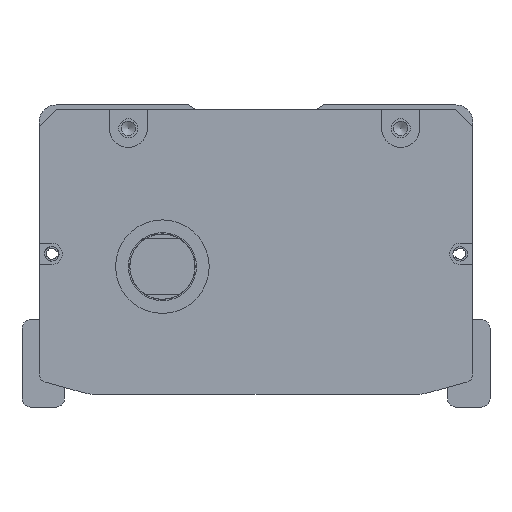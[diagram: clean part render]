
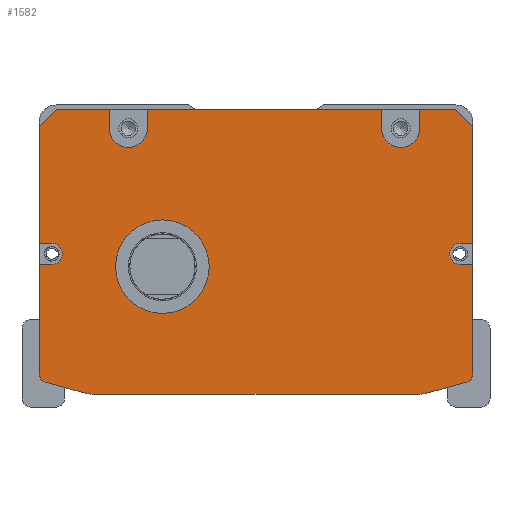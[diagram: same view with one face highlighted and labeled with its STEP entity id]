
A CAD part, front view. The second image highlights one B-rep face of the part: STEP entity #1582.
In plain terms, the highlighted planar face has unit normal (0, -1, 0).
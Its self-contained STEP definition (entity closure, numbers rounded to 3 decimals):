
#958=FACE_BOUND('',#3010,.T.);
#959=FACE_BOUND('',#3011,.T.);
#1582=ADVANCED_FACE('',(#958,#959),#2173,.F.);
#2173=PLANE('',#11715);
#3010=EDGE_LOOP('',(#5327,#5328,#5329,#5330,#5331,#5332,#5333,#5334,#5335,
#5336,#5337,#5338,#5339,#5340,#5341,#5342,#5343,#5344,#5345,#5346,#5347,
#5348,#5349,#5350,#5351,#5352,#5353,#5354));
#3011=EDGE_LOOP('',(#5355));
#3941=CIRCLE('',#11706,4.5);
#3942=CIRCLE('',#11707,4.5);
#3943=CIRCLE('',#11708,2.5);
#3944=CIRCLE('',#11709,2.);
#3945=CIRCLE('',#11710,10.);
#3946=CIRCLE('',#11711,10.);
#3947=CIRCLE('',#11712,2.);
#3948=CIRCLE('',#11713,2.5);
#3949=CIRCLE('',#11714,11.);
#5327=ORIENTED_EDGE('',*,*,#8620,.T.);
#5328=ORIENTED_EDGE('',*,*,#9034,.T.);
#5329=ORIENTED_EDGE('',*,*,#9035,.T.);
#5330=ORIENTED_EDGE('',*,*,#9036,.F.);
#5331=ORIENTED_EDGE('',*,*,#9037,.T.);
#5332=ORIENTED_EDGE('',*,*,#9038,.F.);
#5333=ORIENTED_EDGE('',*,*,#9039,.T.);
#5334=ORIENTED_EDGE('',*,*,#9040,.F.);
#5335=ORIENTED_EDGE('',*,*,#9041,.T.);
#5336=ORIENTED_EDGE('',*,*,#9042,.F.);
#5337=ORIENTED_EDGE('',*,*,#9043,.T.);
#5338=ORIENTED_EDGE('',*,*,#9044,.T.);
#5339=ORIENTED_EDGE('',*,*,#8652,.T.);
#5340=ORIENTED_EDGE('',*,*,#9045,.T.);
#5341=ORIENTED_EDGE('',*,*,#9046,.T.);
#5342=ORIENTED_EDGE('',*,*,#9047,.T.);
#5343=ORIENTED_EDGE('',*,*,#8648,.T.);
#5344=ORIENTED_EDGE('',*,*,#9048,.T.);
#5345=ORIENTED_EDGE('',*,*,#9049,.T.);
#5346=ORIENTED_EDGE('',*,*,#9050,.T.);
#5347=ORIENTED_EDGE('',*,*,#9051,.T.);
#5348=ORIENTED_EDGE('',*,*,#9052,.T.);
#5349=ORIENTED_EDGE('',*,*,#9053,.T.);
#5350=ORIENTED_EDGE('',*,*,#9054,.T.);
#5351=ORIENTED_EDGE('',*,*,#8624,.T.);
#5352=ORIENTED_EDGE('',*,*,#9055,.T.);
#5353=ORIENTED_EDGE('',*,*,#9056,.T.);
#5354=ORIENTED_EDGE('',*,*,#9057,.T.);
#5355=ORIENTED_EDGE('',*,*,#9058,.T.);
#7510=VERTEX_POINT('',#16116);
#7511=VERTEX_POINT('',#16118);
#7514=VERTEX_POINT('',#16124);
#7515=VERTEX_POINT('',#16126);
#7536=VERTEX_POINT('',#16171);
#7537=VERTEX_POINT('',#16173);
#7540=VERTEX_POINT('',#16179);
#7541=VERTEX_POINT('',#16181);
#7802=VERTEX_POINT('',#16970);
#7803=VERTEX_POINT('',#16972);
#7804=VERTEX_POINT('',#16974);
#7805=VERTEX_POINT('',#16976);
#7806=VERTEX_POINT('',#16978);
#7807=VERTEX_POINT('',#16980);
#7808=VERTEX_POINT('',#16982);
#7809=VERTEX_POINT('',#16984);
#7810=VERTEX_POINT('',#16986);
#7811=VERTEX_POINT('',#16988);
#7812=VERTEX_POINT('',#16991);
#7813=VERTEX_POINT('',#16993);
#7814=VERTEX_POINT('',#16996);
#7815=VERTEX_POINT('',#16998);
#7816=VERTEX_POINT('',#17000);
#7817=VERTEX_POINT('',#17002);
#7818=VERTEX_POINT('',#17004);
#7819=VERTEX_POINT('',#17006);
#7820=VERTEX_POINT('',#17009);
#7821=VERTEX_POINT('',#17011);
#7822=VERTEX_POINT('',#17014);
#8620=EDGE_CURVE('',#7511,#7510,#10055,.T.);
#8624=EDGE_CURVE('',#7515,#7514,#10059,.T.);
#8648=EDGE_CURVE('',#7537,#7536,#10083,.T.);
#8652=EDGE_CURVE('',#7541,#7540,#10087,.T.);
#9034=EDGE_CURVE('',#7510,#7802,#10320,.T.);
#9035=EDGE_CURVE('',#7802,#7803,#10321,.T.);
#9036=EDGE_CURVE('',#7804,#7803,#10322,.T.);
#9037=EDGE_CURVE('',#7804,#7805,#3941,.T.);
#9038=EDGE_CURVE('',#7806,#7805,#10323,.T.);
#9039=EDGE_CURVE('',#7806,#7807,#10324,.T.);
#9040=EDGE_CURVE('',#7808,#7807,#10325,.T.);
#9041=EDGE_CURVE('',#7808,#7809,#3942,.T.);
#9042=EDGE_CURVE('',#7810,#7809,#10326,.T.);
#9043=EDGE_CURVE('',#7810,#7811,#10327,.T.);
#9044=EDGE_CURVE('',#7811,#7541,#10328,.T.);
#9045=EDGE_CURVE('',#7540,#7812,#10329,.T.);
#9046=EDGE_CURVE('',#7812,#7813,#3943,.T.);
#9047=EDGE_CURVE('',#7813,#7537,#10330,.T.);
#9048=EDGE_CURVE('',#7536,#7814,#3944,.T.);
#9049=EDGE_CURVE('',#7814,#7815,#10331,.T.);
#9050=EDGE_CURVE('',#7815,#7816,#3945,.T.);
#9051=EDGE_CURVE('',#7816,#7817,#10332,.T.);
#9052=EDGE_CURVE('',#7817,#7818,#3946,.T.);
#9053=EDGE_CURVE('',#7818,#7819,#10333,.T.);
#9054=EDGE_CURVE('',#7819,#7515,#3947,.T.);
#9055=EDGE_CURVE('',#7514,#7820,#10334,.T.);
#9056=EDGE_CURVE('',#7820,#7821,#3948,.T.);
#9057=EDGE_CURVE('',#7821,#7511,#10335,.T.);
#9058=EDGE_CURVE('',#7822,#7822,#3949,.T.);
#10055=LINE('',#16117,#10708);
#10059=LINE('',#16125,#10712);
#10083=LINE('',#16172,#10736);
#10087=LINE('',#16180,#10740);
#10320=LINE('',#16969,#10973);
#10321=LINE('',#16971,#10974);
#10322=LINE('',#16973,#10975);
#10323=LINE('',#16977,#10976);
#10324=LINE('',#16979,#10977);
#10325=LINE('',#16981,#10978);
#10326=LINE('',#16985,#10979);
#10327=LINE('',#16987,#10980);
#10328=LINE('',#16989,#10981);
#10329=LINE('',#16990,#10982);
#10330=LINE('',#16994,#10983);
#10331=LINE('',#16997,#10984);
#10332=LINE('',#17001,#10985);
#10333=LINE('',#17005,#10986);
#10334=LINE('',#17008,#10987);
#10335=LINE('',#17012,#10988);
#10708=VECTOR('',#12870,1.);
#10712=VECTOR('',#12874,1.);
#10736=VECTOR('',#12900,1.);
#10740=VECTOR('',#12904,1.);
#10973=VECTOR('',#13727,1.);
#10974=VECTOR('',#13728,1.);
#10975=VECTOR('',#13729,1.);
#10976=VECTOR('',#13732,1.);
#10977=VECTOR('',#13733,1.);
#10978=VECTOR('',#13734,1.);
#10979=VECTOR('',#13737,1.);
#10980=VECTOR('',#13738,1.);
#10981=VECTOR('',#13739,1.);
#10982=VECTOR('',#13740,1.);
#10983=VECTOR('',#13743,1.);
#10984=VECTOR('',#13746,1.);
#10985=VECTOR('',#13749,1.);
#10986=VECTOR('',#13752,1.);
#10987=VECTOR('',#13755,1.);
#10988=VECTOR('',#13758,1.);
#11706=AXIS2_PLACEMENT_3D('',#16975,#13730,#13731);
#11707=AXIS2_PLACEMENT_3D('',#16983,#13735,#13736);
#11708=AXIS2_PLACEMENT_3D('',#16992,#13741,#13742);
#11709=AXIS2_PLACEMENT_3D('',#16995,#13744,#13745);
#11710=AXIS2_PLACEMENT_3D('',#16999,#13747,#13748);
#11711=AXIS2_PLACEMENT_3D('',#17003,#13750,#13751);
#11712=AXIS2_PLACEMENT_3D('',#17007,#13753,#13754);
#11713=AXIS2_PLACEMENT_3D('',#17010,#13756,#13757);
#11714=AXIS2_PLACEMENT_3D('',#17013,#13759,#13760);
#11715=AXIS2_PLACEMENT_3D('',#17015,#13761,#13762);
#12870=DIRECTION('',(0.,0.,1.));
#12874=DIRECTION('',(0.,0.,1.));
#12900=DIRECTION('',(0.,0.,-1.));
#12904=DIRECTION('',(0.,0.,-1.));
#13727=DIRECTION('',(-0.707,0.,0.707));
#13728=DIRECTION('',(-1.,0.,0.));
#13729=DIRECTION('',(0.,0.,1.));
#13730=DIRECTION('',(0.,1.,0.));
#13731=DIRECTION('',(0.,0.,1.));
#13732=DIRECTION('',(0.,0.,-1.));
#13733=DIRECTION('',(-1.,0.,0.));
#13734=DIRECTION('',(0.,0.,1.));
#13735=DIRECTION('',(0.,1.,0.));
#13736=DIRECTION('',(0.,0.,1.));
#13737=DIRECTION('',(0.,0.,-1.));
#13738=DIRECTION('',(-1.,0.,0.));
#13739=DIRECTION('',(-0.707,0.,-0.707));
#13740=DIRECTION('',(1.,0.,0.));
#13741=DIRECTION('',(0.,1.,0.));
#13742=DIRECTION('',(0.,0.,1.));
#13743=DIRECTION('',(-1.,0.,0.));
#13744=DIRECTION('',(0.,-1.,0.));
#13745=DIRECTION('',(0.,0.,1.));
#13746=DIRECTION('',(0.963,0.,-0.269));
#13747=DIRECTION('',(0.,-1.,0.));
#13748=DIRECTION('',(0.,0.,1.));
#13749=DIRECTION('',(1.,0.,0.));
#13750=DIRECTION('',(0.,-1.,0.));
#13751=DIRECTION('',(0.,0.,-1.));
#13752=DIRECTION('',(0.963,0.,0.269));
#13753=DIRECTION('',(0.,-1.,0.));
#13754=DIRECTION('',(0.,0.,-1.));
#13755=DIRECTION('',(-1.,0.,0.));
#13756=DIRECTION('',(0.,1.,0.));
#13757=DIRECTION('',(0.,0.,1.));
#13758=DIRECTION('',(1.,0.,0.));
#13759=DIRECTION('',(0.,1.,0.));
#13760=DIRECTION('',(0.,0.,1.));
#13761=DIRECTION('',(0.,1.,0.));
#13762=DIRECTION('',(1.,0.,0.));
#16116=CARTESIAN_POINT('',(47.808,-157.5,-5.));
#16117=CARTESIAN_POINT('',(47.808,-157.5,-1.));
#16118=CARTESIAN_POINT('',(47.808,-157.5,-32.5));
#16124=CARTESIAN_POINT('',(47.808,-157.5,-37.5));
#16125=CARTESIAN_POINT('',(47.808,-157.5,-1.));
#16126=CARTESIAN_POINT('',(47.808,-157.5,-63.212));
#16171=CARTESIAN_POINT('',(-54.192,-157.5,-63.212));
#16172=CARTESIAN_POINT('',(-54.192,-157.5,-62.));
#16173=CARTESIAN_POINT('',(-54.192,-157.5,-37.5));
#16179=CARTESIAN_POINT('',(-54.192,-157.5,-32.5));
#16180=CARTESIAN_POINT('',(-54.192,-157.5,-62.));
#16181=CARTESIAN_POINT('',(-54.192,-157.5,-5.));
#16969=CARTESIAN_POINT('',(43.808,-157.5,-1.));
#16970=CARTESIAN_POINT('',(43.808,-157.5,-1.));
#16971=CARTESIAN_POINT('',(-3.192,-157.5,-1.));
#16972=CARTESIAN_POINT('',(35.308,-157.5,-1.));
#16973=CARTESIAN_POINT('',(35.308,-157.5,-1.));
#16974=CARTESIAN_POINT('',(35.308,-157.5,-5.5));
#16975=CARTESIAN_POINT('',(30.808,-157.5,-5.5));
#16976=CARTESIAN_POINT('',(26.308,-157.5,-5.5));
#16977=CARTESIAN_POINT('',(26.308,-157.5,-1.));
#16978=CARTESIAN_POINT('',(26.308,-157.5,-1.));
#16979=CARTESIAN_POINT('',(-54.192,-157.5,-1.));
#16980=CARTESIAN_POINT('',(-28.692,-157.5,-1.));
#16981=CARTESIAN_POINT('',(-28.692,-157.5,-3.5));
#16982=CARTESIAN_POINT('',(-28.692,-157.5,-5.5));
#16983=CARTESIAN_POINT('',(-33.192,-157.5,-5.5));
#16984=CARTESIAN_POINT('',(-37.692,-157.5,-5.5));
#16985=CARTESIAN_POINT('',(-37.692,-157.5,-1.));
#16986=CARTESIAN_POINT('',(-37.692,-157.5,-1.));
#16987=CARTESIAN_POINT('',(-54.192,-157.5,-1.));
#16988=CARTESIAN_POINT('',(-50.192,-157.5,-1.));
#16989=CARTESIAN_POINT('',(-54.192,-157.5,-5.));
#16990=CARTESIAN_POINT('',(-3.192,-157.5,-32.5));
#16991=CARTESIAN_POINT('',(-51.192,-157.5,-32.5));
#16992=CARTESIAN_POINT('',(-51.192,-157.5,-35.));
#16993=CARTESIAN_POINT('',(-51.192,-157.5,-37.5));
#16994=CARTESIAN_POINT('',(-3.192,-157.5,-37.5));
#16995=CARTESIAN_POINT('',(-52.192,-157.5,-63.212));
#16996=CARTESIAN_POINT('',(-52.731,-157.5,-65.138));
#16997=CARTESIAN_POINT('',(-55.807,-157.5,-64.279));
#16998=CARTESIAN_POINT('',(-43.809,-157.5,-67.631));
#16999=CARTESIAN_POINT('',(-41.118,-157.5,-58.));
#17000=CARTESIAN_POINT('',(-41.118,-157.5,-68.));
#17001=CARTESIAN_POINT('',(-54.692,-157.5,-68.));
#17002=CARTESIAN_POINT('',(34.733,-157.5,-68.));
#17003=CARTESIAN_POINT('',(34.733,-157.5,-58.));
#17004=CARTESIAN_POINT('',(37.424,-157.5,-67.631));
#17005=CARTESIAN_POINT('',(49.422,-157.5,-64.279));
#17006=CARTESIAN_POINT('',(46.346,-157.5,-65.138));
#17007=CARTESIAN_POINT('',(45.808,-157.5,-63.212));
#17008=CARTESIAN_POINT('',(-3.192,-157.5,-37.5));
#17009=CARTESIAN_POINT('',(44.808,-157.5,-37.5));
#17010=CARTESIAN_POINT('',(44.808,-157.5,-35.));
#17011=CARTESIAN_POINT('',(44.808,-157.5,-32.5));
#17012=CARTESIAN_POINT('',(-3.192,-157.5,-32.5));
#17013=CARTESIAN_POINT('',(-25.192,-157.5,-38.));
#17014=CARTESIAN_POINT('',(-25.192,-157.5,-27.));
#17015=CARTESIAN_POINT('',(-3.192,-157.5,-1.));
